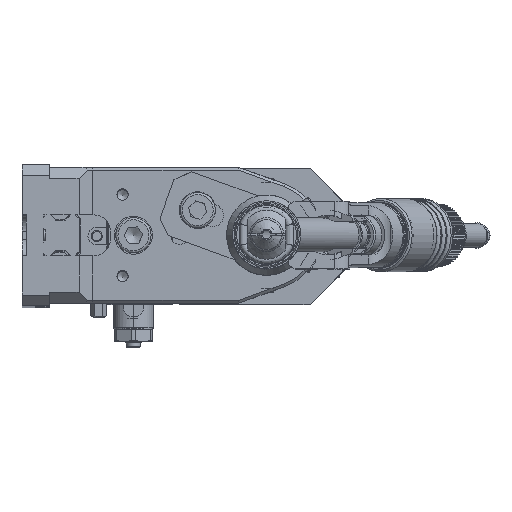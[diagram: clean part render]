
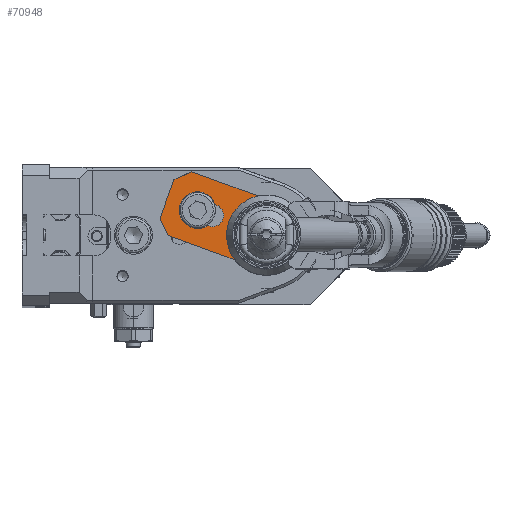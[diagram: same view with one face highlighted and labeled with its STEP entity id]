
A CAD part, top view. The second image highlights one B-rep face of the part: STEP entity #70948.
In plain terms, the highlighted planar face has unit normal (0, 0, 1).
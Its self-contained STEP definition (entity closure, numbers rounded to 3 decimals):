
#4219=FACE_BOUND('',#10589,.T.);
#4729=PLANE('',#75075);
#6708=FACE_OUTER_BOUND('',#10588,.T.);
#10588=EDGE_LOOP('',(#46555,#46556,#46557,#46558,#46559,#46560,#46561,#46562,
#46563,#46564));
#10589=EDGE_LOOP('',(#46565,#46566,#46567,#46568));
#14964=LINE('',#100037,#20188);
#14970=LINE('',#100050,#20194);
#14975=LINE('',#100075,#20199);
#14976=LINE('',#100077,#20200);
#14977=LINE('',#100079,#20201);
#14978=LINE('',#100081,#20202);
#14979=LINE('',#100083,#20203);
#14980=LINE('',#100085,#20204);
#14981=LINE('',#100086,#20205);
#20188=VECTOR('',#81733,10.);
#20194=VECTOR('',#81747,10.);
#20199=VECTOR('',#81774,10.);
#20200=VECTOR('',#81775,10.);
#20201=VECTOR('',#81776,10.);
#20202=VECTOR('',#81777,10.);
#20203=VECTOR('',#81778,10.);
#20204=VECTOR('',#81779,10.);
#20205=VECTOR('',#81780,10.);
#25403=CIRCLE('',#75058,6.75);
#25407=CIRCLE('',#75065,4.1);
#25408=CIRCLE('',#75068,1.);
#25413=CIRCLE('',#75076,12.5);
#25414=CIRCLE('',#75077,1.);
#28369=VERTEX_POINT('',#100020);
#28370=VERTEX_POINT('',#100022);
#28375=VERTEX_POINT('',#100036);
#28378=VERTEX_POINT('',#100044);
#28379=VERTEX_POINT('',#100052);
#28380=VERTEX_POINT('',#100053);
#28385=VERTEX_POINT('',#100070);
#28386=VERTEX_POINT('',#100072);
#28387=VERTEX_POINT('',#100074);
#28388=VERTEX_POINT('',#100076);
#28389=VERTEX_POINT('',#100078);
#28390=VERTEX_POINT('',#100080);
#28391=VERTEX_POINT('',#100082);
#28392=VERTEX_POINT('',#100084);
#35571=EDGE_CURVE('',#28370,#28369,#25403,.T.);
#35578=EDGE_CURVE('',#28375,#28370,#14964,.T.);
#35582=EDGE_CURVE('',#28378,#28375,#25407,.T.);
#35586=EDGE_CURVE('',#28369,#28378,#14970,.T.);
#35587=EDGE_CURVE('',#28379,#28380,#25408,.T.);
#35596=EDGE_CURVE('',#28385,#28379,#25413,.T.);
#35597=EDGE_CURVE('',#28386,#28385,#25414,.T.);
#35598=EDGE_CURVE('',#28386,#28387,#14975,.T.);
#35599=EDGE_CURVE('',#28387,#28388,#14976,.T.);
#35600=EDGE_CURVE('',#28389,#28388,#14977,.T.);
#35601=EDGE_CURVE('',#28389,#28390,#14978,.T.);
#35602=EDGE_CURVE('',#28391,#28390,#14979,.T.);
#35603=EDGE_CURVE('',#28391,#28392,#14980,.T.);
#35604=EDGE_CURVE('',#28392,#28380,#14981,.T.);
#46555=ORIENTED_EDGE('',*,*,#35587,.F.);
#46556=ORIENTED_EDGE('',*,*,#35596,.F.);
#46557=ORIENTED_EDGE('',*,*,#35597,.F.);
#46558=ORIENTED_EDGE('',*,*,#35598,.T.);
#46559=ORIENTED_EDGE('',*,*,#35599,.T.);
#46560=ORIENTED_EDGE('',*,*,#35600,.F.);
#46561=ORIENTED_EDGE('',*,*,#35601,.T.);
#46562=ORIENTED_EDGE('',*,*,#35602,.F.);
#46563=ORIENTED_EDGE('',*,*,#35603,.T.);
#46564=ORIENTED_EDGE('',*,*,#35604,.T.);
#46565=ORIENTED_EDGE('',*,*,#35571,.T.);
#46566=ORIENTED_EDGE('',*,*,#35586,.T.);
#46567=ORIENTED_EDGE('',*,*,#35582,.T.);
#46568=ORIENTED_EDGE('',*,*,#35578,.T.);
#70948=ADVANCED_FACE('',(#6708,#4219),#4729,.T.);
#75058=AXIS2_PLACEMENT_3D('',#100023,#81719,#81720);
#75065=AXIS2_PLACEMENT_3D('',#100045,#81740,#81741);
#75068=AXIS2_PLACEMENT_3D('',#100054,#81750,#81751);
#75075=AXIS2_PLACEMENT_3D('',#100069,#81768,#81769);
#75076=AXIS2_PLACEMENT_3D('',#100071,#81770,#81771);
#75077=AXIS2_PLACEMENT_3D('',#100073,#81772,#81773);
#81719=DIRECTION('center_axis',(0.,0.,
-1.));
#81720=DIRECTION('ref_axis',(-0.94,0.342,0.));
#81733=DIRECTION('',(-0.94,0.342,0.));
#81740=DIRECTION('center_axis',(0.,0.,
-1.));
#81741=DIRECTION('ref_axis',(0.342,0.94,0.));
#81747=DIRECTION('',(0.94,-0.342,0.));
#81750=DIRECTION('center_axis',(0.,0.,
-1.));
#81751=DIRECTION('ref_axis',(0.993,0.119,0.));
#81768=DIRECTION('center_axis',(0.,0.,
1.));
#81769=DIRECTION('ref_axis',(-0.342,-0.94,0.));
#81770=DIRECTION('center_axis',(0.,0.,
1.));
#81771=DIRECTION('ref_axis',(0.,1.,0.));
#81772=DIRECTION('center_axis',(0.,0.,
-1.));
#81773=DIRECTION('ref_axis',(0.684,-0.729,0.));
#81774=DIRECTION('',(0.342,0.94,0.));
#81775=DIRECTION('',(-0.94,0.342,0.));
#81776=DIRECTION('',(0.906,0.423,0.));
#81777=DIRECTION('',(-0.342,-0.94,0.));
#81778=DIRECTION('',(-0.423,0.906,0.));
#81779=DIRECTION('',(0.94,-0.342,0.));
#81780=DIRECTION('',(0.342,0.94,0.));
#100020=CARTESIAN_POINT('',(45.221,10.307,194.902));
#100022=CARTESIAN_POINT('',(42.416,2.601,194.902));
#100023=CARTESIAN_POINT('Origin',(38.78,8.288,194.902));
#100036=CARTESIAN_POINT('',(42.828,2.451,194.902));
#100037=CARTESIAN_POINT('',(46.774,1.015,194.902));
#100044=CARTESIAN_POINT('',(45.632,10.157,194.902));
#100045=CARTESIAN_POINT('Origin',(44.23,6.304,194.902));
#100050=CARTESIAN_POINT('',(52.304,7.728,194.902));
#100052=CARTESIAN_POINT('',(53.747,-7.875,194.902));
#100053=CARTESIAN_POINT('',(53.854,-8.771,194.902));
#100054=CARTESIAN_POINT('Origin',(52.915,-8.429,194.902));
#100069=CARTESIAN_POINT('Origin',(57.574,1.447,194.902));
#100070=CARTESIAN_POINT('',(60.635,11.048,194.902));
#100071=CARTESIAN_POINT('Origin',(64.152,-0.947,194.902));
#100072=CARTESIAN_POINT('',(61.293,11.666,194.902));
#100073=CARTESIAN_POINT('Origin',(60.353,12.008,194.902));
#100074=CARTESIAN_POINT('',(61.849,13.193,194.902));
#100075=CARTESIAN_POINT('',(57.574,1.447,194.902));
#100076=CARTESIAN_POINT('',(36.477,22.428,194.902));
#100077=CARTESIAN_POINT('',(31.779,24.138,194.902));
#100078=CARTESIAN_POINT('',(30.069,19.44,194.902));
#100079=CARTESIAN_POINT('',(39.521,23.847,194.902));
#100080=CARTESIAN_POINT('',(24.938,5.344,194.902));
#100081=CARTESIAN_POINT('',(27.504,12.392,194.902));
#100082=CARTESIAN_POINT('',(27.927,-1.064,194.902));
#100083=CARTESIAN_POINT('',(29.346,-4.108,194.902));
#100084=CARTESIAN_POINT('',(53.298,-10.299,194.902));
#100085=CARTESIAN_POINT('',(23.228,0.646,194.902));
#100086=CARTESIAN_POINT('',(57.574,1.447,194.902));
